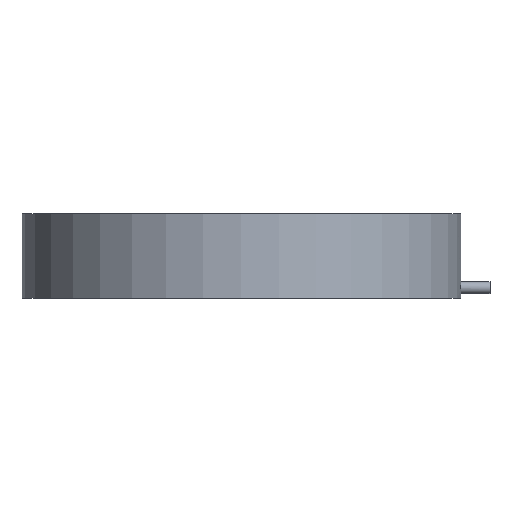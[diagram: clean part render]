
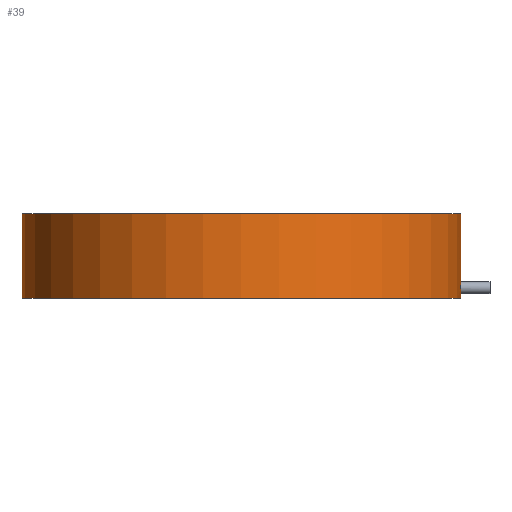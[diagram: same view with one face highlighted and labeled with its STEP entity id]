
A CAD part, front view. The second image highlights one B-rep face of the part: STEP entity #39.
In plain terms, the highlighted cylindrical face has radius 75 mm (diameter 150 mm), a partial arc.
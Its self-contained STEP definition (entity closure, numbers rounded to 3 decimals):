
#6 = ORIENTED_EDGE ( 'NONE', *, *, #173, .T. ) ;
#12 = VECTOR ( 'NONE', #277, 1000. ) ;
#26 = CARTESIAN_POINT ( 'NONE',  ( 74.975, -1.936, 3.131 ) ) ;
#28 = DIRECTION ( 'NONE',  ( 0., 0., 1. ) ) ;
#30 = CARTESIAN_POINT ( 'NONE',  ( 74.978, -1.798, 2.764 ) ) ;
#39 = ADVANCED_FACE ( 'NONE', ( #146 ), #195, .T. ) ;
#59 = CIRCLE ( 'NONE', #610, 75. ) ;
#68 = CARTESIAN_POINT ( 'NONE',  ( 75., 0., 5.65 ) ) ;
#73 = CARTESIAN_POINT ( 'NONE',  ( 75., 0., 29. ) ) ;
#92 = CARTESIAN_POINT ( 'NONE',  ( 74.983, -1.599, 4.879 ) ) ;
#97 = CARTESIAN_POINT ( 'NONE',  ( 74.995, -0.887, 5.447 ) ) ;
#110 = VERTEX_POINT ( 'NONE', #327 ) ;
#130 = VERTEX_POINT ( 'NONE', #68 ) ;
#132 = VERTEX_POINT ( 'NONE', #477 ) ;
#146 = FACE_OUTER_BOUND ( 'NONE', #329, .T. ) ;
#154 = CARTESIAN_POINT ( 'NONE',  ( 74.998, -0.519, 1.714 ) ) ;
#165 = DIRECTION ( 'NONE',  ( 0., 0., -1. ) ) ;
#170 = DIRECTION ( 'NONE',  ( 1., 0., 0. ) ) ;
#173 = EDGE_CURVE ( 'NONE', #830, #110, #803, .T. ) ;
#189 = CARTESIAN_POINT ( 'NONE',  ( 75., 0., 1.65 ) ) ;
#195 = CYLINDRICAL_SURFACE ( 'NONE', #811, 75. ) ;
#205 = ORIENTED_EDGE ( 'NONE', *, *, #221, .F. ) ;
#221 = EDGE_CURVE ( 'NONE', #582, #732, #414, .T. ) ;
#229 = CARTESIAN_POINT ( 'NONE',  ( 75., -0.262, 5.637 ) ) ;
#236 = CARTESIAN_POINT ( 'NONE',  ( 74.995, -0.886, 1.852 ) ) ;
#257 = ORIENTED_EDGE ( 'NONE', *, *, #714, .F. ) ;
#277 = DIRECTION ( 'NONE',  ( 0., 0., -1. ) ) ;
#289 = CARTESIAN_POINT ( 'NONE',  ( 74.997, -0.645, 5.548 ) ) ;
#292 = CARTESIAN_POINT ( 'NONE',  ( 74.988, -1.321, 2.143 ) ) ;
#295 = CARTESIAN_POINT ( 'NONE',  ( 74.98, -1.735, 2.647 ) ) ;
#298 = CARTESIAN_POINT ( 'NONE',  ( 74.975, -1.947, 4.175 ) ) ;
#327 = CARTESIAN_POINT ( 'NONE',  ( -75., 0., 0. ) ) ;
#329 = EDGE_LOOP ( 'NONE', ( #453, #716, #6, #751, #205, #257 ) ) ;
#345 = CARTESIAN_POINT ( 'NONE',  ( -75., 0., 29. ) ) ;
#348 = VECTOR ( 'NONE', #165, 1000. ) ;
#363 = CARTESIAN_POINT ( 'NONE',  ( -75., 0., 29. ) ) ;
#370 = CARTESIAN_POINT ( 'NONE',  ( 74.997, -0.644, 1.752 ) ) ;
#371 = CARTESIAN_POINT ( 'NONE',  ( 74.973, -2., 3.52 ) ) ;
#414 = LINE ( 'NONE', #73, #525 ) ;
#426 = CARTESIAN_POINT ( 'NONE',  ( 75., -0.263, 1.663 ) ) ;
#431 = CARTESIAN_POINT ( 'NONE',  ( 74.988, -1.322, 5.156 ) ) ;
#434 = CARTESIAN_POINT ( 'NONE',  ( 75., 0., 0. ) ) ;
#440 = CARTESIAN_POINT ( 'NONE',  ( 74.993, -1.002, 5.386 ) ) ;
#453 = ORIENTED_EDGE ( 'NONE', *, *, #748, .F. ) ;
#477 = CARTESIAN_POINT ( 'NONE',  ( 75., 0., 29. ) ) ;
#484 = CARTESIAN_POINT ( 'NONE',  ( 0., 0., 29. ) ) ;
#500 = LINE ( 'NONE', #501, #348 ) ;
#501 = CARTESIAN_POINT ( 'NONE',  ( 75., 0., 29. ) ) ;
#505 = CARTESIAN_POINT ( 'NONE',  ( 74.985, -1.508, 2.33 ) ) ;
#507 = CARTESIAN_POINT ( 'NONE',  ( 75., -0.131, 1.65 ) ) ;
#513 = EDGE_CURVE ( 'NONE', #110, #732, #713, .T. ) ;
#525 = VECTOR ( 'NONE', #801, 1000. ) ;
#561 = CARTESIAN_POINT ( 'NONE',  ( 74.973, -2., 3.912 ) ) ;
#567 = CARTESIAN_POINT ( 'NONE',  ( 74.974, -1.987, 3.388 ) ) ;
#572 = CARTESIAN_POINT ( 'NONE',  ( 74.993, -1.003, 1.915 ) ) ;
#582 = VERTEX_POINT ( 'NONE', #189 ) ;
#610 = AXIS2_PLACEMENT_3D ( 'NONE', #484, #660, #734 ) ;
#622 = CARTESIAN_POINT ( 'NONE',  ( 74.998, -0.518, 5.586 ) ) ;
#631 = CARTESIAN_POINT ( 'NONE',  ( 74.983, -1.591, 2.431 ) ) ;
#641 = DIRECTION ( 'NONE',  ( 0., 0., -1. ) ) ;
#647 = EDGE_CURVE ( 'NONE', #830, #132, #59, .T. ) ;
#660 = DIRECTION ( 'NONE',  ( 0., 0., 1. ) ) ;
#691 = CARTESIAN_POINT ( 'NONE',  ( 74.98, -1.748, 4.656 ) ) ;
#713 = CIRCLE ( 'NONE', #718, 75. ) ;
#714 = EDGE_CURVE ( 'NONE', #130, #582, #733, .T. ) ;
#716 = ORIENTED_EDGE ( 'NONE', *, *, #647, .F. ) ;
#718 = AXIS2_PLACEMENT_3D ( 'NONE', #819, #28, #170 ) ;
#732 = VERTEX_POINT ( 'NONE', #434 ) ;
#733 = B_SPLINE_CURVE_WITH_KNOTS ( 'NONE', 3,
 ( #818, #755, #229, #622, #289, #97, #440, #809, #431, #92, #691, #298, #561, #371, #567, #26, #820, #30, #295, #631, #505, #292, #750, #572, #236, #370, #154, #426, #507, #743 ),
 .UNSPECIFIED., .F., .F.,
 ( 4, 2, 2, 2, 2, 2, 2, 2, 2, 2, 2, 2, 2, 2, 4 ),
 ( 0., 0., 0.001, 0.001, 0.002, 0.002, 0.003, 0.004, 0.004, 0.004, 0.005, 0.005, 0.005, 0.006, 0.006 ),
 .UNSPECIFIED. ) ;
#734 = DIRECTION ( 'NONE',  ( 1., 0., 0. ) ) ;
#743 = CARTESIAN_POINT ( 'NONE',  ( 75., 0., 1.65 ) ) ;
#748 = EDGE_CURVE ( 'NONE', #132, #130, #500, .T. ) ;
#750 = CARTESIAN_POINT ( 'NONE',  ( 74.99, -1.22, 2.06 ) ) ;
#751 = ORIENTED_EDGE ( 'NONE', *, *, #513, .T. ) ;
#755 = CARTESIAN_POINT ( 'NONE',  ( 75., -0.132, 5.65 ) ) ;
#756 = DIRECTION ( 'NONE',  ( -1., 0., 0. ) ) ;
#759 = CARTESIAN_POINT ( 'NONE',  ( 0., 0., 29. ) ) ;
#801 = DIRECTION ( 'NONE',  ( 0., 0., -1. ) ) ;
#803 = LINE ( 'NONE', #345, #12 ) ;
#809 = CARTESIAN_POINT ( 'NONE',  ( 74.99, -1.219, 5.241 ) ) ;
#811 = AXIS2_PLACEMENT_3D ( 'NONE', #759, #641, #756 ) ;
#818 = CARTESIAN_POINT ( 'NONE',  ( 75., 0., 5.65 ) ) ;
#819 = CARTESIAN_POINT ( 'NONE',  ( 0., 0., 0. ) ) ;
#820 = CARTESIAN_POINT ( 'NONE',  ( 74.976, -1.898, 3.007 ) ) ;
#830 = VERTEX_POINT ( 'NONE', #363 ) ;
